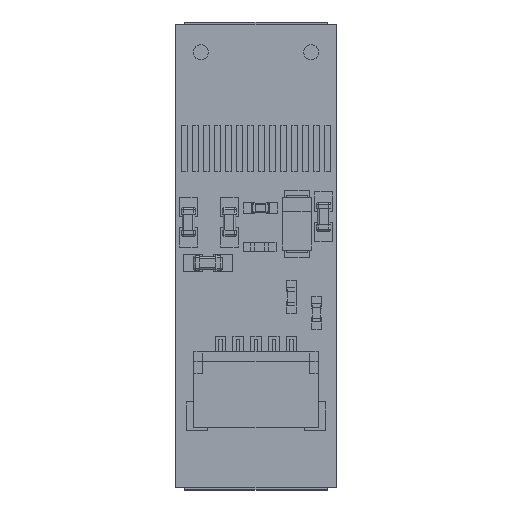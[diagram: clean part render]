
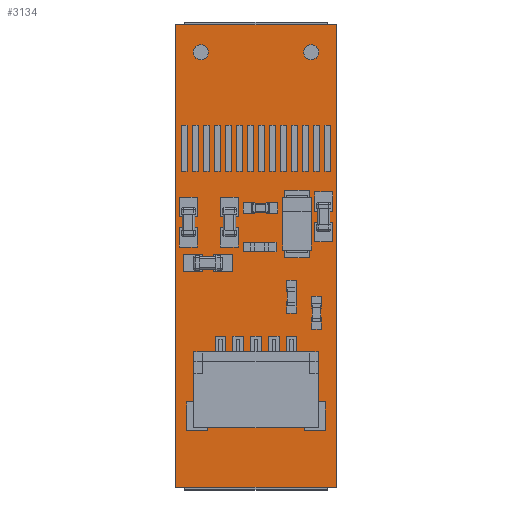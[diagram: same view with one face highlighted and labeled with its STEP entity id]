
A CAD part, top view. The second image highlights one B-rep face of the part: STEP entity #3134.
In plain terms, the highlighted planar face has unit normal (0, 0, 1).
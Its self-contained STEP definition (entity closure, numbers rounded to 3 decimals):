
#2642 = VERTEX_POINT('',#2643);
#2643 = CARTESIAN_POINT('',(10.,5.,0.6));
#2650 = PLANE('',#2651);
#2651 = AXIS2_PLACEMENT_3D('',#2652,#2653,#2654);
#2652 = CARTESIAN_POINT('',(10.,5.,0.));
#2653 = DIRECTION('',(-1.,0.,0.));
#2654 = DIRECTION('',(0.,1.,0.));
#2662 = PLANE('',#2663);
#2663 = AXIS2_PLACEMENT_3D('',#2664,#2665,#2666);
#2664 = CARTESIAN_POINT('',(19.,5.,0.));
#2665 = DIRECTION('',(0.,-1.,0.));
#2666 = DIRECTION('',(-1.,0.,0.));
#2674 = EDGE_CURVE('',#2642,#2675,#2677,.T.);
#2675 = VERTEX_POINT('',#2676);
#2676 = CARTESIAN_POINT('',(10.,31.,0.6));
#2677 = SURFACE_CURVE('',#2678,(#2682,#2689),.PCURVE_S1.);
#2678 = LINE('',#2679,#2680);
#2679 = CARTESIAN_POINT('',(10.,5.,0.6));
#2680 = VECTOR('',#2681,1.);
#2681 = DIRECTION('',(0.,1.,0.));
#2682 = PCURVE('',#2650,#2683);
#2683 = DEFINITIONAL_REPRESENTATION('',(#2684),#2688);
#2684 = LINE('',#2685,#2686);
#2685 = CARTESIAN_POINT('',(0.,-0.6));
#2686 = VECTOR('',#2687,1.);
#2687 = DIRECTION('',(1.,0.));
#2688 = ( GEOMETRIC_REPRESENTATION_CONTEXT(2) 
PARAMETRIC_REPRESENTATION_CONTEXT() REPRESENTATION_CONTEXT('2D SPACE',''
  ) );
#2689 = PCURVE('',#2690,#2695);
#2690 = PLANE('',#2691);
#2691 = AXIS2_PLACEMENT_3D('',#2692,#2693,#2694);
#2692 = CARTESIAN_POINT('',(14.5,18.,0.6));
#2693 = DIRECTION('',(-0.,-0.,-1.));
#2694 = DIRECTION('',(-1.,0.,0.));
#2695 = DEFINITIONAL_REPRESENTATION('',(#2696),#2700);
#2696 = LINE('',#2697,#2698);
#2697 = CARTESIAN_POINT('',(4.5,-13.));
#2698 = VECTOR('',#2699,1.);
#2699 = DIRECTION('',(0.,1.));
#2700 = ( GEOMETRIC_REPRESENTATION_CONTEXT(2) 
PARAMETRIC_REPRESENTATION_CONTEXT() REPRESENTATION_CONTEXT('2D SPACE',''
  ) );
#2718 = PLANE('',#2719);
#2719 = AXIS2_PLACEMENT_3D('',#2720,#2721,#2722);
#2720 = CARTESIAN_POINT('',(10.,31.,0.));
#2721 = DIRECTION('',(0.,1.,0.));
#2722 = DIRECTION('',(1.,0.,0.));
#2762 = VERTEX_POINT('',#2763);
#2763 = CARTESIAN_POINT('',(19.,5.,0.6));
#2777 = PLANE('',#2778);
#2778 = AXIS2_PLACEMENT_3D('',#2779,#2780,#2781);
#2779 = CARTESIAN_POINT('',(19.,31.,0.));
#2780 = DIRECTION('',(1.,0.,0.));
#2781 = DIRECTION('',(0.,-1.,0.));
#2789 = EDGE_CURVE('',#2762,#2642,#2790,.T.);
#2790 = SURFACE_CURVE('',#2791,(#2795,#2802),.PCURVE_S1.);
#2791 = LINE('',#2792,#2793);
#2792 = CARTESIAN_POINT('',(19.,5.,0.6));
#2793 = VECTOR('',#2794,1.);
#2794 = DIRECTION('',(-1.,0.,0.));
#2795 = PCURVE('',#2662,#2796);
#2796 = DEFINITIONAL_REPRESENTATION('',(#2797),#2801);
#2797 = LINE('',#2798,#2799);
#2798 = CARTESIAN_POINT('',(0.,-0.6));
#2799 = VECTOR('',#2800,1.);
#2800 = DIRECTION('',(1.,0.));
#2801 = ( GEOMETRIC_REPRESENTATION_CONTEXT(2) 
PARAMETRIC_REPRESENTATION_CONTEXT() REPRESENTATION_CONTEXT('2D SPACE',''
  ) );
#2802 = PCURVE('',#2690,#2803);
#2803 = DEFINITIONAL_REPRESENTATION('',(#2804),#2808);
#2804 = LINE('',#2805,#2806);
#2805 = CARTESIAN_POINT('',(-4.5,-13.));
#2806 = VECTOR('',#2807,1.);
#2807 = DIRECTION('',(1.,0.));
#2808 = ( GEOMETRIC_REPRESENTATION_CONTEXT(2) 
PARAMETRIC_REPRESENTATION_CONTEXT() REPRESENTATION_CONTEXT('2D SPACE',''
  ) );
#2836 = EDGE_CURVE('',#2675,#2837,#2839,.T.);
#2837 = VERTEX_POINT('',#2838);
#2838 = CARTESIAN_POINT('',(19.,31.,0.6));
#2839 = SURFACE_CURVE('',#2840,(#2844,#2851),.PCURVE_S1.);
#2840 = LINE('',#2841,#2842);
#2841 = CARTESIAN_POINT('',(10.,31.,0.6));
#2842 = VECTOR('',#2843,1.);
#2843 = DIRECTION('',(1.,0.,0.));
#2844 = PCURVE('',#2718,#2845);
#2845 = DEFINITIONAL_REPRESENTATION('',(#2846),#2850);
#2846 = LINE('',#2847,#2848);
#2847 = CARTESIAN_POINT('',(0.,-0.6));
#2848 = VECTOR('',#2849,1.);
#2849 = DIRECTION('',(1.,0.));
#2850 = ( GEOMETRIC_REPRESENTATION_CONTEXT(2) 
PARAMETRIC_REPRESENTATION_CONTEXT() REPRESENTATION_CONTEXT('2D SPACE',''
  ) );
#2851 = PCURVE('',#2690,#2852);
#2852 = DEFINITIONAL_REPRESENTATION('',(#2853),#2857);
#2853 = LINE('',#2854,#2855);
#2854 = CARTESIAN_POINT('',(4.5,13.));
#2855 = VECTOR('',#2856,1.);
#2856 = DIRECTION('',(-1.,0.));
#2857 = ( GEOMETRIC_REPRESENTATION_CONTEXT(2) 
PARAMETRIC_REPRESENTATION_CONTEXT() REPRESENTATION_CONTEXT('2D SPACE',''
  ) );
#2907 = EDGE_CURVE('',#2837,#2762,#2908,.T.);
#2908 = SURFACE_CURVE('',#2909,(#2913,#2920),.PCURVE_S1.);
#2909 = LINE('',#2910,#2911);
#2910 = CARTESIAN_POINT('',(19.,31.,0.6));
#2911 = VECTOR('',#2912,1.);
#2912 = DIRECTION('',(0.,-1.,0.));
#2913 = PCURVE('',#2777,#2914);
#2914 = DEFINITIONAL_REPRESENTATION('',(#2915),#2919);
#2915 = LINE('',#2916,#2917);
#2916 = CARTESIAN_POINT('',(0.,-0.6));
#2917 = VECTOR('',#2918,1.);
#2918 = DIRECTION('',(1.,0.));
#2919 = ( GEOMETRIC_REPRESENTATION_CONTEXT(2) 
PARAMETRIC_REPRESENTATION_CONTEXT() REPRESENTATION_CONTEXT('2D SPACE',''
  ) );
#2920 = PCURVE('',#2690,#2921);
#2921 = DEFINITIONAL_REPRESENTATION('',(#2922),#2926);
#2922 = LINE('',#2923,#2924);
#2923 = CARTESIAN_POINT('',(-4.5,13.));
#2924 = VECTOR('',#2925,1.);
#2925 = DIRECTION('',(0.,-1.));
#2926 = ( GEOMETRIC_REPRESENTATION_CONTEXT(2) 
PARAMETRIC_REPRESENTATION_CONTEXT() REPRESENTATION_CONTEXT('2D SPACE',''
  ) );
#2963 = CYLINDRICAL_SURFACE('',#2964,0.426);
#2964 = AXIS2_PLACEMENT_3D('',#2965,#2966,#2967);
#2965 = CARTESIAN_POINT('',(17.6,29.45,0.));
#2966 = DIRECTION('',(-0.,-0.,-1.));
#2967 = DIRECTION('',(1.,0.,0.));
#2987 = VERTEX_POINT('',#2988);
#2988 = CARTESIAN_POINT('',(18.026,29.45,0.6));
#3009 = EDGE_CURVE('',#2987,#2987,#3010,.T.);
#3010 = SURFACE_CURVE('',#3011,(#3016,#3023),.PCURVE_S1.);
#3011 = CIRCLE('',#3012,0.426);
#3012 = AXIS2_PLACEMENT_3D('',#3013,#3014,#3015);
#3013 = CARTESIAN_POINT('',(17.6,29.45,0.6));
#3014 = DIRECTION('',(0.,0.,1.));
#3015 = DIRECTION('',(1.,0.,-0.));
#3016 = PCURVE('',#2963,#3017);
#3017 = DEFINITIONAL_REPRESENTATION('',(#3018),#3022);
#3018 = LINE('',#3019,#3020);
#3019 = CARTESIAN_POINT('',(6.283,-0.6));
#3020 = VECTOR('',#3021,1.);
#3021 = DIRECTION('',(-1.,0.));
#3022 = ( GEOMETRIC_REPRESENTATION_CONTEXT(2) 
PARAMETRIC_REPRESENTATION_CONTEXT() REPRESENTATION_CONTEXT('2D SPACE',''
  ) );
#3023 = PCURVE('',#2690,#3024);
#3024 = DEFINITIONAL_REPRESENTATION('',(#3025),#3033);
#3025 = ( BOUNDED_CURVE() B_SPLINE_CURVE(2,(#3026,#3027,#3028,#3029,
#3030,#3031,#3032),.UNSPECIFIED.,.T.,.F.) B_SPLINE_CURVE_WITH_KNOTS((1,2
    ,2,2,2,1),(-2.094,0.,2.094,4.189,
6.283,8.378),.UNSPECIFIED.) CURVE() 
GEOMETRIC_REPRESENTATION_ITEM() RATIONAL_B_SPLINE_CURVE((1.,0.5,1.,0.5,
1.,0.5,1.)) REPRESENTATION_ITEM('') );
#3026 = CARTESIAN_POINT('',(-3.526,11.45));
#3027 = CARTESIAN_POINT('',(-3.526,12.188));
#3028 = CARTESIAN_POINT('',(-2.887,11.819));
#3029 = CARTESIAN_POINT('',(-2.248,11.45));
#3030 = CARTESIAN_POINT('',(-2.887,11.081));
#3031 = CARTESIAN_POINT('',(-3.526,10.712));
#3032 = CARTESIAN_POINT('',(-3.526,11.45));
#3033 = ( GEOMETRIC_REPRESENTATION_CONTEXT(2) 
PARAMETRIC_REPRESENTATION_CONTEXT() REPRESENTATION_CONTEXT('2D SPACE',''
  ) );
#3049 = CYLINDRICAL_SURFACE('',#3050,0.426);
#3050 = AXIS2_PLACEMENT_3D('',#3051,#3052,#3053);
#3051 = CARTESIAN_POINT('',(11.4,29.45,0.));
#3052 = DIRECTION('',(-0.,-0.,-1.));
#3053 = DIRECTION('',(1.,0.,0.));
#3073 = VERTEX_POINT('',#3074);
#3074 = CARTESIAN_POINT('',(11.826,29.45,0.6));
#3095 = EDGE_CURVE('',#3073,#3073,#3096,.T.);
#3096 = SURFACE_CURVE('',#3097,(#3102,#3109),.PCURVE_S1.);
#3097 = CIRCLE('',#3098,0.426);
#3098 = AXIS2_PLACEMENT_3D('',#3099,#3100,#3101);
#3099 = CARTESIAN_POINT('',(11.4,29.45,0.6));
#3100 = DIRECTION('',(0.,0.,1.));
#3101 = DIRECTION('',(1.,0.,-0.));
#3102 = PCURVE('',#3049,#3103);
#3103 = DEFINITIONAL_REPRESENTATION('',(#3104),#3108);
#3104 = LINE('',#3105,#3106);
#3105 = CARTESIAN_POINT('',(6.283,-0.6));
#3106 = VECTOR('',#3107,1.);
#3107 = DIRECTION('',(-1.,0.));
#3108 = ( GEOMETRIC_REPRESENTATION_CONTEXT(2) 
PARAMETRIC_REPRESENTATION_CONTEXT() REPRESENTATION_CONTEXT('2D SPACE',''
  ) );
#3109 = PCURVE('',#2690,#3110);
#3110 = DEFINITIONAL_REPRESENTATION('',(#3111),#3119);
#3111 = ( BOUNDED_CURVE() B_SPLINE_CURVE(2,(#3112,#3113,#3114,#3115,
#3116,#3117,#3118),.UNSPECIFIED.,.T.,.F.) B_SPLINE_CURVE_WITH_KNOTS((1,2
    ,2,2,2,1),(-2.094,0.,2.094,4.189,
6.283,8.378),.UNSPECIFIED.) CURVE() 
GEOMETRIC_REPRESENTATION_ITEM() RATIONAL_B_SPLINE_CURVE((1.,0.5,1.,0.5,
1.,0.5,1.)) REPRESENTATION_ITEM('') );
#3112 = CARTESIAN_POINT('',(2.674,11.45));
#3113 = CARTESIAN_POINT('',(2.674,12.188));
#3114 = CARTESIAN_POINT('',(3.313,11.819));
#3115 = CARTESIAN_POINT('',(3.952,11.45));
#3116 = CARTESIAN_POINT('',(3.313,11.081));
#3117 = CARTESIAN_POINT('',(2.674,10.712));
#3118 = CARTESIAN_POINT('',(2.674,11.45));
#3119 = ( GEOMETRIC_REPRESENTATION_CONTEXT(2) 
PARAMETRIC_REPRESENTATION_CONTEXT() REPRESENTATION_CONTEXT('2D SPACE',''
  ) );
#3134 = ADVANCED_FACE('',(#3135,#3141,#3144),#2690,.F.);
#3135 = FACE_BOUND('',#3136,.F.);
#3136 = EDGE_LOOP('',(#3137,#3138,#3139,#3140));
#3137 = ORIENTED_EDGE('',*,*,#2674,.T.);
#3138 = ORIENTED_EDGE('',*,*,#2836,.T.);
#3139 = ORIENTED_EDGE('',*,*,#2907,.T.);
#3140 = ORIENTED_EDGE('',*,*,#2789,.T.);
#3141 = FACE_BOUND('',#3142,.F.);
#3142 = EDGE_LOOP('',(#3143));
#3143 = ORIENTED_EDGE('',*,*,#3009,.T.);
#3144 = FACE_BOUND('',#3145,.F.);
#3145 = EDGE_LOOP('',(#3146));
#3146 = ORIENTED_EDGE('',*,*,#3095,.T.);
